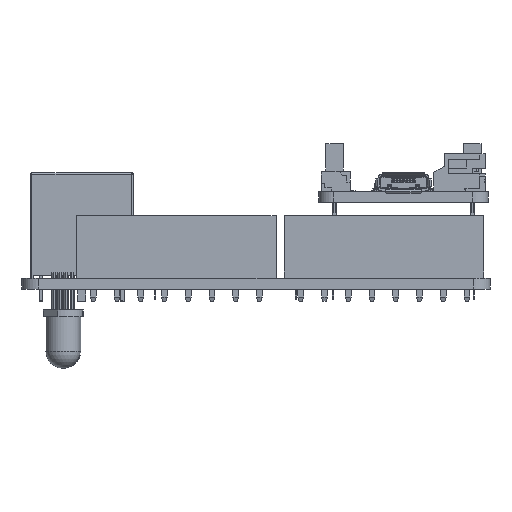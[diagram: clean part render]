
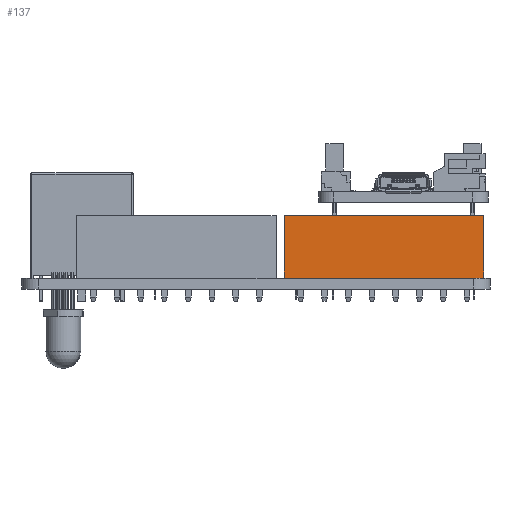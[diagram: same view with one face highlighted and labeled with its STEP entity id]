
A CAD part, left-side view. The second image highlights one B-rep face of the part: STEP entity #137.
In plain terms, the highlighted planar face has unit normal (-1, 0, 0) as drawn and (0, -1, 0) by its records, which use the part's own axes.
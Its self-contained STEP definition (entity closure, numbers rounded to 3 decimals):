
#137 = ADVANCED_FACE('',(#138),#172,.F.);
#138 = FACE_BOUND('',#139,.F.);
#139 = EDGE_LOOP('',(#140,#150,#158,#166));
#140 = ORIENTED_EDGE('',*,*,#141,.T.);
#141 = EDGE_CURVE('',#142,#144,#146,.T.);
#142 = VERTEX_POINT('',#143);
#143 = CARTESIAN_POINT('',(-2.45,-3.,0.));
#144 = VERTEX_POINT('',#145);
#145 = CARTESIAN_POINT('',(-2.45,-3.,9.2));
#146 = LINE('',#147,#148);
#147 = CARTESIAN_POINT('',(-2.45,-3.,0.));
#148 = VECTOR('',#149,1.);
#149 = DIRECTION('',(0.,0.,1.));
#150 = ORIENTED_EDGE('',*,*,#151,.T.);
#151 = EDGE_CURVE('',#144,#152,#154,.T.);
#152 = VERTEX_POINT('',#153);
#153 = CARTESIAN_POINT('',(26.95,-3.,9.2));
#154 = LINE('',#155,#156);
#155 = CARTESIAN_POINT('',(-2.45,-3.,9.2));
#156 = VECTOR('',#157,1.);
#157 = DIRECTION('',(1.,0.,0.));
#158 = ORIENTED_EDGE('',*,*,#159,.F.);
#159 = EDGE_CURVE('',#160,#152,#162,.T.);
#160 = VERTEX_POINT('',#161);
#161 = CARTESIAN_POINT('',(26.95,-3.,0.));
#162 = LINE('',#163,#164);
#163 = CARTESIAN_POINT('',(26.95,-3.,0.));
#164 = VECTOR('',#165,1.);
#165 = DIRECTION('',(0.,0.,1.));
#166 = ORIENTED_EDGE('',*,*,#167,.F.);
#167 = EDGE_CURVE('',#142,#160,#168,.T.);
#168 = LINE('',#169,#170);
#169 = CARTESIAN_POINT('',(-2.45,-3.,0.));
#170 = VECTOR('',#171,1.);
#171 = DIRECTION('',(1.,0.,0.));
#172 = PLANE('',#173);
#173 = AXIS2_PLACEMENT_3D('',#174,#175,#176);
#174 = CARTESIAN_POINT('',(-2.45,-3.,0.));
#175 = DIRECTION('',(0.,1.,0.));
#176 = DIRECTION('',(1.,0.,0.));
